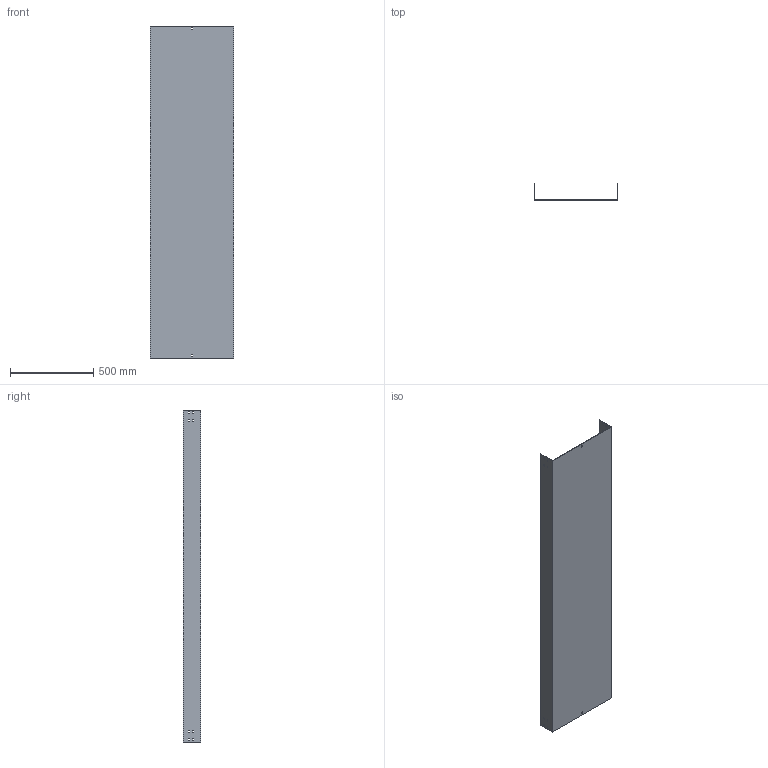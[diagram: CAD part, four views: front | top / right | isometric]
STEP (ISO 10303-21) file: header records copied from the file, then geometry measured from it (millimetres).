
FILE_DESCRIPTION (( 'STEP AP214' ), '1' );
FILE_NAME ('03F2D500.step', '2025-02-21T13:16:03', ( '' ), ( '' ), 'SwSTEP 2.0', 'SolidWorks 2023', '' );
FILE_SCHEMA (( 'AUTOMOTIVE_DESIGN' ));
Length unit declared in the file: millimetre
Products named in the file (1): 03F2D500
Bounding box: 504 x 104 x 2000 mm (x, y, z)
Volume: 4930670.5 mm3; surface area: 2838582 mm2
Topology: 1 solids, 1 shells, 82 faces, 240 edges, 160 vertices
Faces by surface type: plane 82
Entity records: 2759 total; most frequent: CARTESIAN_POINT 483, ORIENTED_EDGE 480, DIRECTION 406, VECTOR 240, LINE 240, EDGE_CURVE 240, VERTEX_POINT 160, EDGE_LOOP 118
